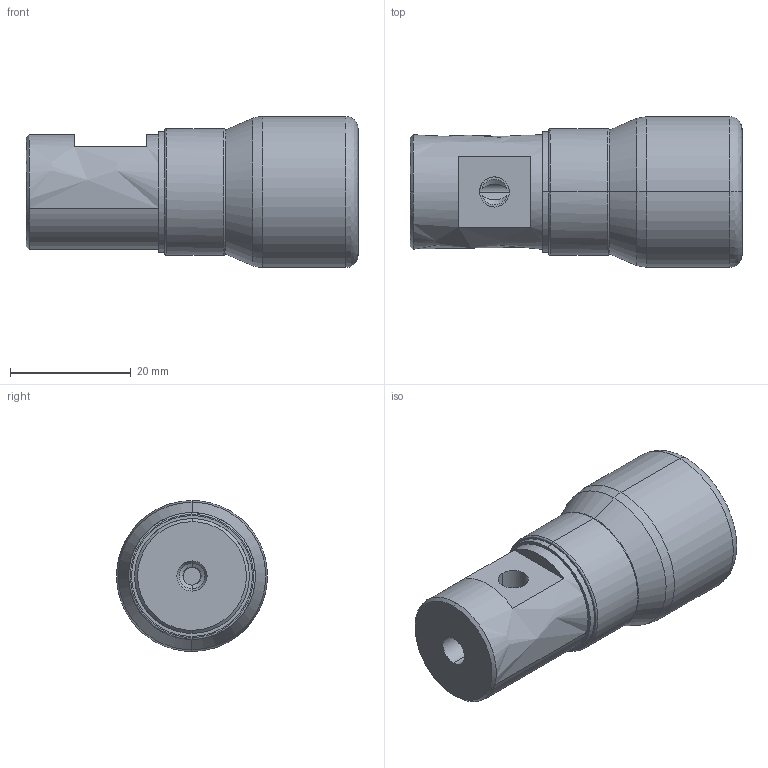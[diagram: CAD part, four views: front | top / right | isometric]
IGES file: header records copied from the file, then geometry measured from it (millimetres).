
Start section: ------------------------------------------------------------------------
Global section: file name: D:\ICADMX\tmp\trans3d_spg\TGMX25.1844.RBP019RCA_23292.igs; native system: spGate; preprocessor: ver11.3.7; author: Unknown; organization: Unknown; date: 150330.151256; units: millimetre
Bounding box: 55 x 24.96 x 25 mm (x, y, z)
Volume: 18695 mm3; surface area: 5286.6 mm2
Topology: 1 solids, 1 shells, 50 faces, 109 edges, 67 vertices
Faces by surface type: bspline 50
